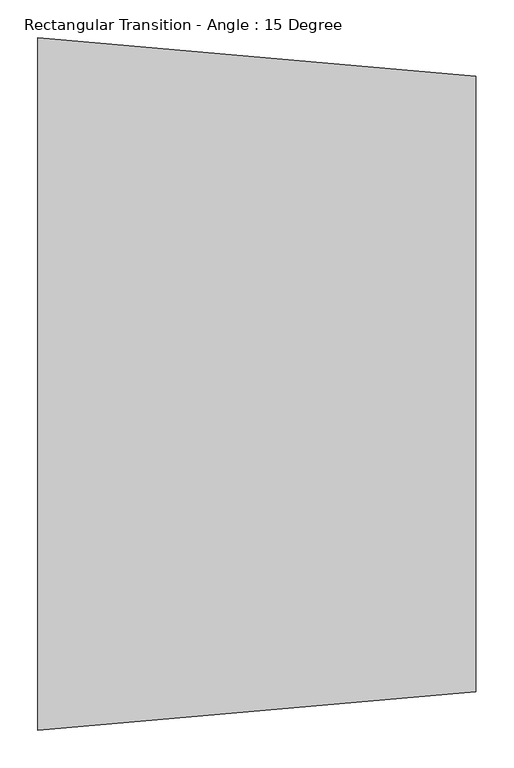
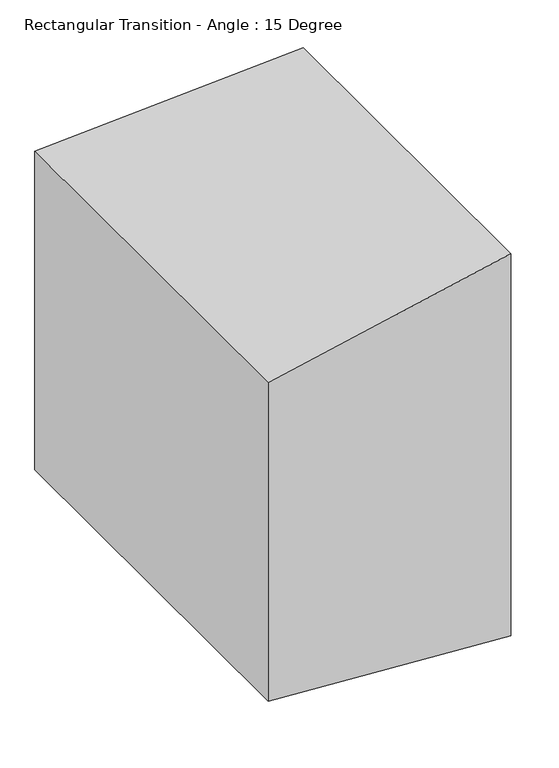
"""IFC4 building model written with IfcOpenShell, lengths in millimetres: duct fitting geometry, Rectangular Transition - Angle : 15 Degree."""

from ifc_helpers import new_model, si_unit, origin, place, context, project, spatial, faceted_brep, source, transform, mapped, element, save


def rectangular_transition_angle_15_degree_3a848fbe(model_context):
    return source(origin(), model_context, "Body", "Brep", [
        faceted_brep([(578.7964634, -406.4, 457.2), (578.7964634, -406.4, -457.2), (578.7964634, 406.4, -457.2), (578.7964634, 406.4, 457.2), (0.0, -457.2, 381.0), (0.0, 457.2, 381.0), (0.0, 457.2, -381.0), (0.0, -457.2, -381.0)], [[[0, 1, 2, 3]], [[4, 5, 6, 7]], [[4, 7, 1, 0]], [[7, 6, 2, 1]], [[6, 5, 3, 2]], [[5, 4, 0, 3]]]),
    ])


if __name__ == "__main__":
    model = new_model("IFC4")
    model_context = context("Model", 3, world=origin())
    ifc_project = project(units=[si_unit("LENGTHUNIT", "METRE", prefix="MILLI")], contexts=[model_context])
    site = spatial("IfcSite", under=ifc_project)
    building = spatial("IfcBuilding", under=site)
    placement = place(None, origin())
    rectangular_transition_angle_15_degree_shape = rectangular_transition_angle_15_degree_3a848fbe(model_context)
    element("IfcDuctFitting", 1, ObjectType="Rectangular Transition - Angle : 15 Degree", at=placement, inside=building, context=model_context, shape_type="MappedRepresentation", body=[
        mapped(rectangular_transition_angle_15_degree_shape, transform((0.0, 0.0, 0.0), x_axis=(1.0, 0.0, 0.0), y_axis=(0.0, 1.0, 0.0), z_axis=(0.0, 0.0, 1.0))),
    ])
    save(model, "model.ifc")
